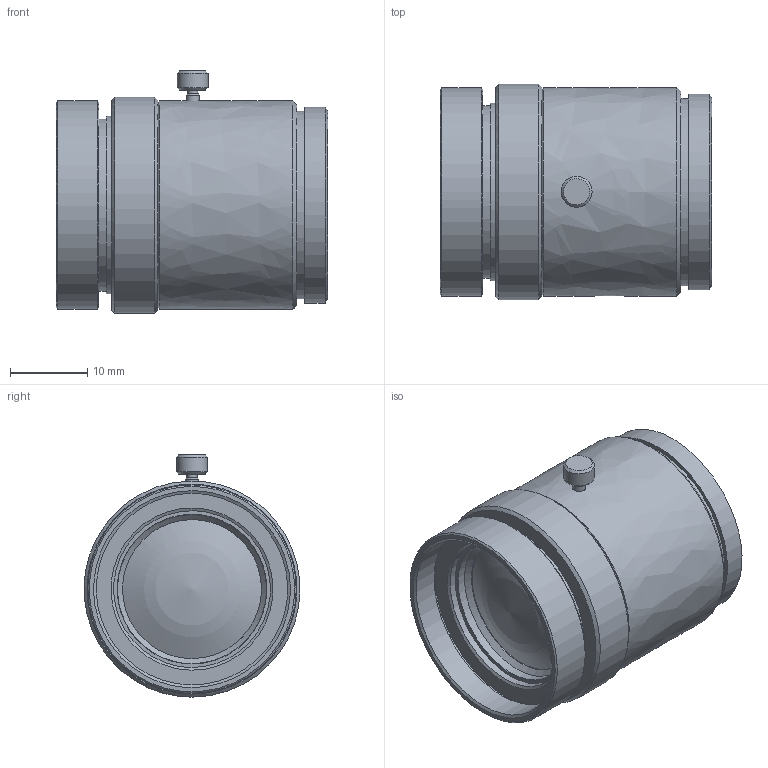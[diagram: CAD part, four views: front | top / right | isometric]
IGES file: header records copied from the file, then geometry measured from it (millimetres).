
Global section: file name: 153-13677_Objektiv LOC-35-RU-25,5x0,5-F4,0; native system: Autodesk Inventor 2021; preprocessor: unknown; date: 20210217.080529; units: millimetre
Bounding box: 35.17 x 27.98 x 31.4 mm (x, y, z)
Volume: 15157.7 mm3; surface area: 5914.3 mm2
Topology: 1 solids, 1 shells, 60 faces, 155 edges, 115 vertices
Faces by surface type: bspline 60
